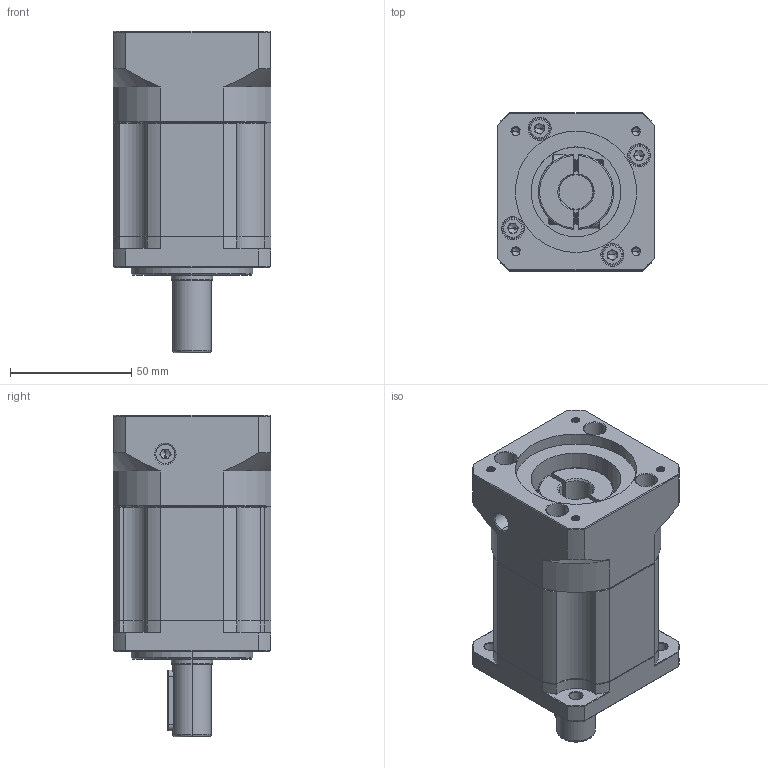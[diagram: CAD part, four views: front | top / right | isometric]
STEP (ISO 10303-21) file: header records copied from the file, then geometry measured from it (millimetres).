
FILE_DESCRIPTION (( 'STEP AP214' ), '1' );
FILE_NAME ('ZB060-D16-L2-P2-14-50-70-M4.step', '2023-08-16T07:06:11', ( '' ), ( '' ), 'SwSTEP 2.0', 'SolidWorks 2016', '' );
FILE_SCHEMA (( 'AUTOMOTIVE_DESIGN' ));
Length unit declared in the file: millimetre
Products named in the file (1): ZB060-D16-L2-P2-14-50-70-M4
Bounding box: 65 x 65 x 132.5 mm (x, y, z)
Volume: 330653 mm3; surface area: 58653.3 mm2
Topology: 6 solids, 6 shells, 2152 faces, 5796 edges, 3732 vertices
Faces by surface type: plane 1059, bspline 397, cylinder 381, cone 281, torus 34
Entity records: 114772 total; most frequent: CARTESIAN_POINT 40221, ORIENTED_EDGE 11532, DIRECTION 9080, EDGE_CURVE 5766, VERTEX_POINT 3732, LINE 3634, VECTOR 3634, AXIS2_PLACEMENT_3D 2723
